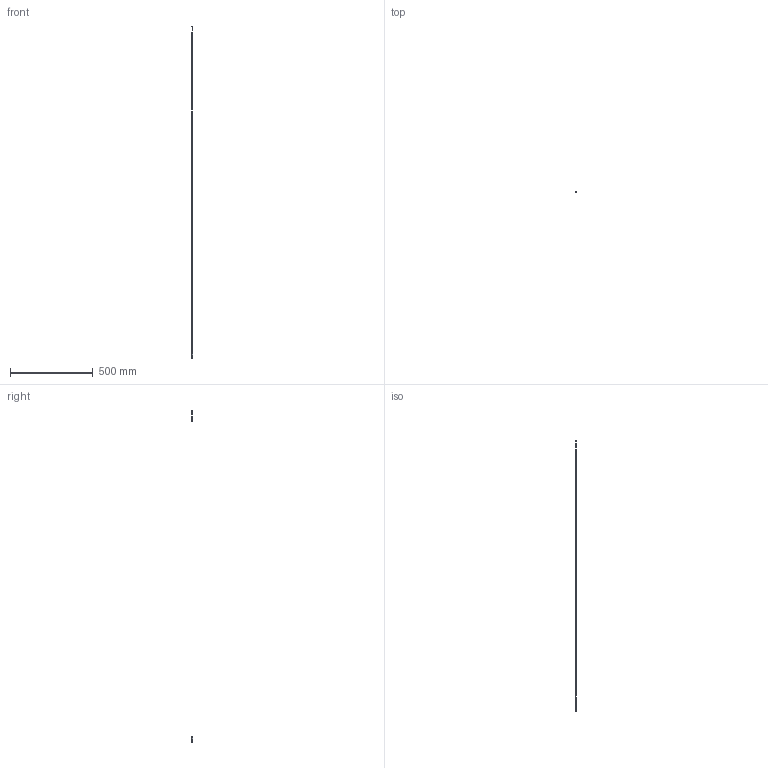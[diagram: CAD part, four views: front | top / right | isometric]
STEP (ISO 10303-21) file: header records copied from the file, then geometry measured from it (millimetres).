
FILE_DESCRIPTION (( 'STEP AP203' ), '1' );
FILE_NAME ('TSP-TH.STEP', '2021-07-30T15:17:26', ( '' ), ( '' ), 'SwSTEP 2.0', 'SolidWorks 2019', '' );
FILE_SCHEMA (( 'CONFIG_CONTROL_DESIGN' ));
Length unit declared in the file: millimetre
Products named in the file (3): TSP-TH; KabelTH; 25mmAudio
Assembly tree (2 placements, depth 2):
  TSP-TH
    KabelTH
    25mmAudio
Bounding box: 6.8 x 6.8 x 2001.51 mm (x, y, z)
Volume: 19539.2 mm3; surface area: 22227.9 mm2
Topology: 2 solids, 2 shells, 172 faces, 439 edges, 290 vertices
Faces by surface type: plane 72, torus 36, bspline 32, cylinder 27, cone 4, sphere 1
Full cylindrical faces by diameter (mm): 2.1 x1, 2.6 x1, 3.5 x6, 4 x1, 4.5 x1, 6.8 x1
Entity records: 6257 total; most frequent: CARTESIAN_POINT 2309, ORIENTED_EDGE 820, DIRECTION 630, EDGE_CURVE 410, VERTEX_POINT 282, AXIS2_PLACEMENT_3D 267, EDGE_LOOP 212, B_SPLINE_CURVE_WITH_KNOTS 192
